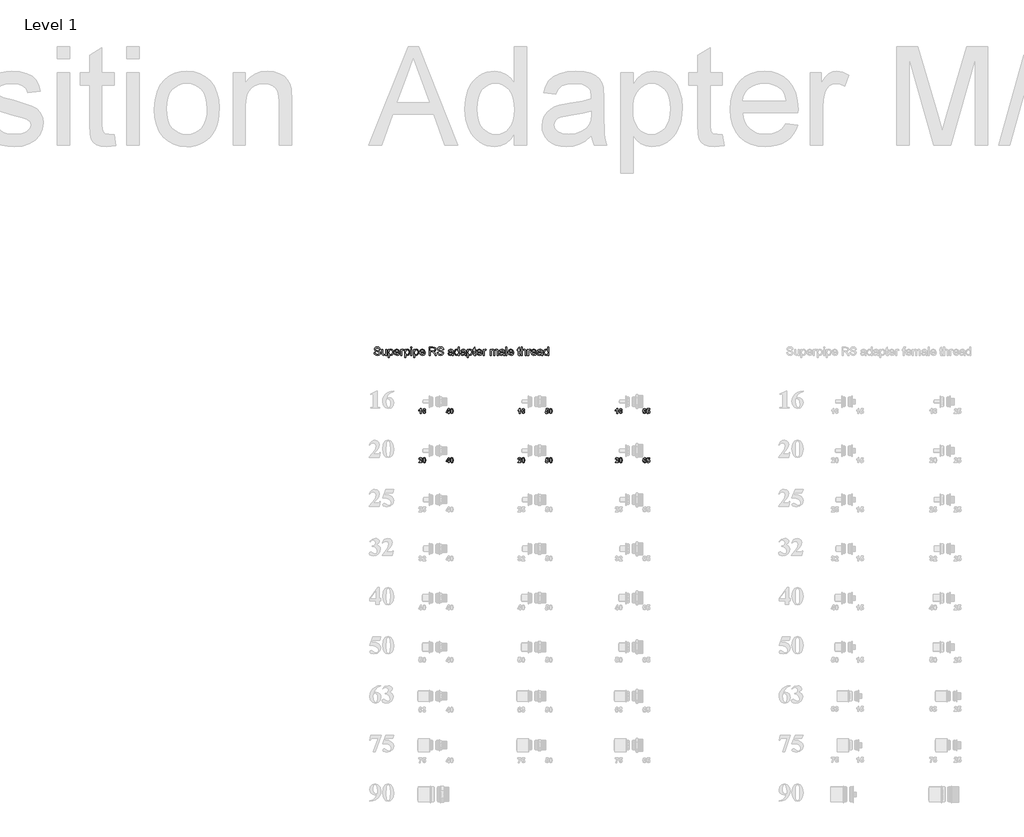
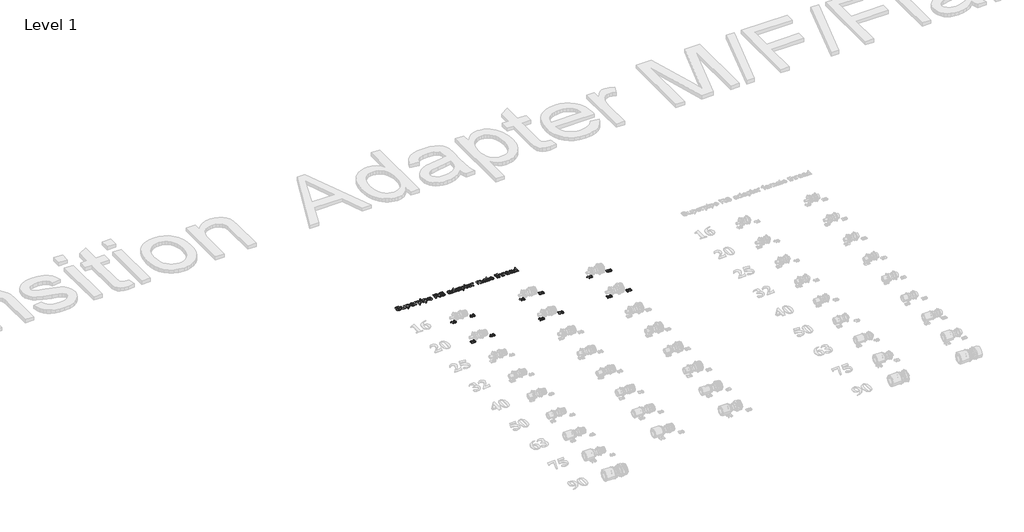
# One storey, part 35 of 57: 13 proxies.
"""IFC4 building model written with IfcOpenShell, lengths in millimetres."""

from ifc_helpers import new_model, si_unit, frame, origin, place, context, project, spatial, polyline, outline, extrude, element, save

model = new_model("IFC4")

# Units and contexts
model_context = context("Model", 3, world=origin())
ifc_project = project(units=[si_unit("LENGTHUNIT", "METRE", prefix="MILLI")], contexts=[model_context])

# Site, building, storey
site = spatial("IfcSite", under=ifc_project)
building = spatial("IfcBuilding", under=site)
storey = spatial("IfcBuildingStorey", under=building, Name="Level 1", Elevation=27.3876384)

# Proxies
placement = place(None, origin())
element("IfcBuildingElementProxy", 1, Name="30mm Arial", ObjectType="30mm Arial", at=placement, inside=storey, context=model_context, shape_type="SweptSolid", body=[
    extrude(outline(polyline([(29102.0287378, 18279.4089076), (29102.0287378, 18273.5788539), (29082.5952254, 18273.5788539), (29084.4550733, 18279.298835), (29090.566002, 18286.4687383), (29095.0751842, 18291.3574813), (29096.1986841, 18294.864623), (29095.2535777, 18297.8138103), (29092.6459951, 18298.84242), (29090.0346169, 18297.8289927), (29088.911117, 18294.4698797), (29083.0810633, 18295.0012648), (29086.2086442, 18302.0497087), (29092.7750458, 18304.1866359), (29099.5615927, 18301.7916074), (29102.0287378, 18295.8362986), (29101.3531196, 18291.979961), (29099.2123968, 18288.146397), (29095.5875912, 18284.3204243), (29092.2588431, 18281.003063), (29091.1657081, 18279.4089076), (29102.0287378, 18279.4089076)])), frame((0.0, 0.0, 27.3876384), z_axis=(0.0, 0.0, 1.0), x_axis=(1.0, 0.0, 0.0)), (0.0, 0.0, 1.0), 2.0),
    extrude(outline(polyline([(29115.6321965, 18304.1866359), (29122.4263346, 18301.0286902), (29125.3489527, 18288.6322348), (29122.4111522, 18276.2054146), (29115.6321965, 18273.0930161), (29108.5913439, 18276.5090632), (29105.9154403, 18288.6929645), (29108.8532408, 18301.0742375), (29115.6321965, 18304.1866359)]), holes=[polyline([(29115.6321965, 18298.84242), (29113.6888453, 18298.2009623), (29112.3679737, 18295.8970283), (29111.745494, 18288.6322348), (29112.2996528, 18281.6141558), (29113.7002321, 18279.0710985), (29115.6321965, 18278.437232), (29117.5755477, 18279.0786898), (29118.8964193, 18281.3826237), (29119.518899, 18288.6322348), (29118.9647402, 18295.6465182), (29117.5641609, 18298.2009623), (29115.6321965, 18298.84242)])]), frame((0.0, 0.0, 27.3876384), z_axis=(0.0, 0.0, 1.0), x_axis=(1.0, 0.0, 0.0)), (0.0, 0.0, 1.0), 2.0),
])
element("IfcBuildingElementProxy", 2, Name="30mm Arial", ObjectType="30mm Arial", at=placement, inside=storey, context=model_context, shape_type="SweptSolid", body=[
    extrude(outline(polyline([(29262.0336573, 18273.5788539), (29262.0336573, 18279.8947455), (29250.3735498, 18279.8947455), (29250.3735498, 18284.7303499), (29262.8079613, 18303.7007981), (29267.863711, 18303.7007981), (29267.863711, 18284.7531236), (29271.7504134, 18284.7531236), (29271.7504134, 18279.8947455), (29267.863711, 18279.8947455), (29267.863711, 18273.5788539), (29262.0336573, 18273.5788539)]), holes=[polyline([(29262.0336573, 18284.7531236), (29262.0336573, 18294.6976162), (29255.5203941, 18284.7531236), (29262.0336573, 18284.7531236)])]), frame((0.0, 0.0, 27.3876384), z_axis=(0.0, 0.0, 1.0), x_axis=(1.0, 0.0, 0.0)), (0.0, 0.0, 1.0), 2.0),
    extrude(outline(polyline([(29284.3821965, 18304.1866359), (29291.1763346, 18301.0286902), (29294.0989527, 18288.6322348), (29291.1611522, 18276.2054146), (29284.3821965, 18273.0930161), (29277.3413439, 18276.5090632), (29274.6654403, 18288.6929645), (29277.6032408, 18301.0742375), (29284.3821965, 18304.1866359)]), holes=[polyline([(29284.3821965, 18298.84242), (29282.4388453, 18298.2009623), (29281.1179737, 18295.8970283), (29280.495494, 18288.6322348), (29281.0496528, 18281.6141558), (29282.4502321, 18279.0710985), (29284.3821965, 18278.437232), (29286.3255477, 18279.0786898), (29287.6464193, 18281.3826237), (29288.268899, 18288.6322348), (29287.7147402, 18295.6465182), (29286.3141609, 18298.2009623), (29284.3821965, 18298.84242)])]), frame((0.0, 0.0, 27.3876384), z_axis=(0.0, 0.0, 1.0), x_axis=(1.0, 0.0, 0.0)), (0.0, 0.0, 1.0), 2.0),
])
element("IfcBuildingElementProxy", 3, Name="30mm Arial", ObjectType="30mm Arial", at=placement, inside=storey, context=model_context, shape_type="SweptSolid", body=[
    extrude(outline(polyline([(29097.1703597, 18573.5788539), (29091.340306, 18573.5788539), (29091.340306, 18595.4567378), (29084.0527389, 18590.5831773), (29084.0527389, 18596.413231), (29088.9187082, 18599.2713237), (29092.5245357, 18604.1866359), (29097.1703597, 18604.1866359), (29097.1703597, 18573.5788539)])), frame((0.0, 0.0, 27.3876384), z_axis=(0.0, 0.0, 1.0), x_axis=(1.0, 0.0, 0.0)), (0.0, 0.0, 1.0), 2.0),
    extrude(outline(polyline([(29124.8631149, 18596.0640351), (29119.0330612, 18595.4415554), (29118.0006558, 18598.0111819), (29115.8295681, 18598.84242), (29112.8386291, 18597.2292867), (29111.2976123, 18590.4541266), (29116.6266458, 18593.0123663), (29122.7869174, 18590.2795286), (29125.3489527, 18583.2272892), (29122.7299832, 18575.8676055), (29115.9965749, 18573.0930161), (29108.754555, 18576.67607), (29105.9154403, 18588.4196808), (29108.8798101, 18600.4897138), (29116.5810985, 18604.1866359), (29122.0847299, 18602.1066428), (29124.8631149, 18596.0640351)]), holes=[polyline([(29111.745494, 18583.3563398), (29113.0056358, 18579.7163519), (29115.8827066, 18578.437232), (29118.4789024, 18579.4848198), (29119.518899, 18582.9236405), (29118.3991946, 18586.5256724), (29115.6018316, 18587.6681504), (29112.8651983, 18586.5750153), (29111.745494, 18583.3563398)])]), frame((0.0, 0.0, 27.3876384), z_axis=(0.0, 0.0, 1.0), x_axis=(1.0, 0.0, 0.0)), (0.0, 0.0, 1.0), 2.0),
])
element("IfcBuildingElementProxy", 4, Name="30mm Arial", ObjectType="30mm Arial", at=placement, inside=storey, context=model_context, shape_type="SweptSolid", body=[
    extrude(outline(polyline([(29262.0336573, 18573.5788539), (29262.0336573, 18579.8947455), (29250.3735498, 18579.8947455), (29250.3735498, 18584.7303499), (29262.8079613, 18603.7007981), (29267.863711, 18603.7007981), (29267.863711, 18584.7531236), (29271.7504134, 18584.7531236), (29271.7504134, 18579.8947455), (29267.863711, 18579.8947455), (29267.863711, 18573.5788539), (29262.0336573, 18573.5788539)]), holes=[polyline([(29262.0336573, 18584.7531236), (29262.0336573, 18594.6976162), (29255.5203941, 18584.7531236), (29262.0336573, 18584.7531236)])]), frame((0.0, 0.0, 27.3876384), z_axis=(0.0, 0.0, 1.0), x_axis=(1.0, 0.0, 0.0)), (0.0, 0.0, 1.0), 2.0),
    extrude(outline(polyline([(29284.3821965, 18604.1866359), (29291.1763346, 18601.0286902), (29294.0989527, 18588.6322348), (29291.1611522, 18576.2054146), (29284.3821965, 18573.0930161), (29277.3413439, 18576.5090632), (29274.6654403, 18588.6929645), (29277.6032408, 18601.0742375), (29284.3821965, 18604.1866359)]), holes=[polyline([(29284.3821965, 18598.84242), (29282.4388453, 18598.2009623), (29281.1179737, 18595.8970283), (29280.495494, 18588.6322348), (29281.0496528, 18581.6141558), (29282.4502321, 18579.0710985), (29284.3821965, 18578.437232), (29286.3255477, 18579.0786898), (29287.6464193, 18581.3826237), (29288.268899, 18588.6322348), (29287.7147402, 18595.6465182), (29286.3141609, 18598.2009623), (29284.3821965, 18598.84242)])]), frame((0.0, 0.0, 27.3876384), z_axis=(0.0, 0.0, 1.0), x_axis=(1.0, 0.0, 0.0)), (0.0, 0.0, 1.0), 2.0),
])
element("IfcBuildingElementProxy", 5, Name="30mm Arial", ObjectType="30mm Arial", at=placement, inside=storey, context=model_context, shape_type="SweptSolid", body=[
    extrude(outline(polyline([(29707.0287378, 18279.4089076), (29707.0287378, 18273.5788539), (29687.5952254, 18273.5788539), (29689.4550733, 18279.298835), (29695.566002, 18286.4687383), (29700.0751842, 18291.3574813), (29701.1986841, 18294.864623), (29700.2535777, 18297.8138103), (29697.6459951, 18298.84242), (29695.0346169, 18297.8289927), (29693.911117, 18294.4698797), (29688.0810633, 18295.0012648), (29691.2086442, 18302.0497087), (29697.7750458, 18304.1866359), (29704.5615927, 18301.7916074), (29707.0287378, 18295.8362986), (29706.3531196, 18291.979961), (29704.2123968, 18288.146397), (29700.5875912, 18284.3204243), (29697.2588431, 18281.003063), (29696.1657081, 18279.4089076), (29707.0287378, 18279.4089076)])), frame((0.0, 0.0, 27.3876384), z_axis=(0.0, 0.0, 1.0), x_axis=(1.0, 0.0, 0.0)), (0.0, 0.0, 1.0), 2.0),
    extrude(outline(polyline([(29720.6321965, 18304.1866359), (29727.4263346, 18301.0286902), (29730.3489527, 18288.6322348), (29727.4111522, 18276.2054146), (29720.6321965, 18273.0930161), (29713.5913439, 18276.5090632), (29710.9154403, 18288.6929645), (29713.8532408, 18301.0742375), (29720.6321965, 18304.1866359)]), holes=[polyline([(29720.6321965, 18298.84242), (29718.6888453, 18298.2009623), (29717.3679737, 18295.8970283), (29716.745494, 18288.6322348), (29717.2996528, 18281.6141558), (29718.7002321, 18279.0710985), (29720.6321965, 18278.437232), (29722.5755477, 18279.0786898), (29723.8964193, 18281.3826237), (29724.518899, 18288.6322348), (29723.9647402, 18295.6465182), (29722.5641609, 18298.2009623), (29720.6321965, 18298.84242)])]), frame((0.0, 0.0, 27.3876384), z_axis=(0.0, 0.0, 1.0), x_axis=(1.0, 0.0, 0.0)), (0.0, 0.0, 1.0), 2.0),
])
element("IfcBuildingElementProxy", 6, Name="30mm Arial", ObjectType="30mm Arial", at=placement, inside=storey, context=model_context, shape_type="SweptSolid", body=[
    extrude(outline(polyline([(29856.3452254, 18282.1948838), (29861.6894414, 18282.8097723), (29863.1773196, 18279.6138705), (29866.0316168, 18278.437232), (29869.1554021, 18279.685987), (29870.4345219, 18283.4474344), (29869.2464967, 18286.9773498), (29866.1530762, 18288.1539882), (29861.886813, 18285.7247992), (29856.8310633, 18286.4763295), (29860.2319279, 18303.7007981), (29874.8070622, 18303.7007981), (29874.8070622, 18297.8707444), (29864.9460729, 18297.8707444), (29863.7694345, 18292.3063832), (29867.5270863, 18293.4982041), (29873.7215184, 18290.7387972), (29876.2645756, 18283.5764851), (29874.1466264, 18277.0252659), (29866.1227114, 18273.0930161), (29859.4386459, 18275.5601612), (29856.3452254, 18282.1948838)])), frame((0.0, 0.0, 27.3876384), z_axis=(0.0, 0.0, 1.0), x_axis=(1.0, 0.0, 0.0)), (0.0, 0.0, 1.0), 2.0),
    extrude(outline(polyline([(29889.3821965, 18304.1866359), (29896.1763346, 18301.0286902), (29899.0989527, 18288.6322348), (29896.1611522, 18276.2054146), (29889.3821965, 18273.0930161), (29882.3413439, 18276.5090632), (29879.6654403, 18288.6929645), (29882.6032408, 18301.0742375), (29889.3821965, 18304.1866359)]), holes=[polyline([(29889.3821965, 18298.84242), (29887.4388453, 18298.2009623), (29886.1179737, 18295.8970283), (29885.495494, 18288.6322348), (29886.0496528, 18281.6141558), (29887.4502321, 18279.0710985), (29889.3821965, 18278.437232), (29891.3255477, 18279.0786898), (29892.6464193, 18281.3826237), (29893.268899, 18288.6322348), (29892.7147402, 18295.6465182), (29891.3141609, 18298.2009623), (29889.3821965, 18298.84242)])]), frame((0.0, 0.0, 27.3876384), z_axis=(0.0, 0.0, 1.0), x_axis=(1.0, 0.0, 0.0)), (0.0, 0.0, 1.0), 2.0),
])
element("IfcBuildingElementProxy", 7, Name="30mm Arial", ObjectType="30mm Arial", at=placement, inside=storey, context=model_context, shape_type="SweptSolid", body=[
    extrude(outline(polyline([(29702.1703597, 18573.5788539), (29696.340306, 18573.5788539), (29696.340306, 18595.4567378), (29689.0527389, 18590.5831773), (29689.0527389, 18596.413231), (29693.9187082, 18599.2713237), (29697.5245357, 18604.1866359), (29702.1703597, 18604.1866359), (29702.1703597, 18573.5788539)])), frame((0.0, 0.0, 27.3876384), z_axis=(0.0, 0.0, 1.0), x_axis=(1.0, 0.0, 0.0)), (0.0, 0.0, 1.0), 2.0),
    extrude(outline(polyline([(29729.8631149, 18596.0640351), (29724.0330612, 18595.4415554), (29723.0006558, 18598.0111819), (29720.8295681, 18598.84242), (29717.8386291, 18597.2292867), (29716.2976123, 18590.4541266), (29721.6266458, 18593.0123663), (29727.7869174, 18590.2795286), (29730.3489527, 18583.2272892), (29727.7299832, 18575.8676055), (29720.9965749, 18573.0930161), (29713.754555, 18576.67607), (29710.9154403, 18588.4196808), (29713.8798101, 18600.4897138), (29721.5810985, 18604.1866359), (29727.0847299, 18602.1066428), (29729.8631149, 18596.0640351)]), holes=[polyline([(29716.745494, 18583.3563398), (29718.0056358, 18579.7163519), (29720.8827066, 18578.437232), (29723.4789024, 18579.4848198), (29724.518899, 18582.9236405), (29723.3991946, 18586.5256724), (29720.6018316, 18587.6681504), (29717.8651983, 18586.5750153), (29716.745494, 18583.3563398)])]), frame((0.0, 0.0, 27.3876384), z_axis=(0.0, 0.0, 1.0), x_axis=(1.0, 0.0, 0.0)), (0.0, 0.0, 1.0), 2.0),
])
element("IfcBuildingElementProxy", 8, Name="30mm Arial", ObjectType="30mm Arial", at=placement, inside=storey, context=model_context, shape_type="SweptSolid", body=[
    extrude(outline(polyline([(29856.3452254, 18582.1948838), (29861.6894414, 18582.8097723), (29863.1773196, 18579.6138705), (29866.0316168, 18578.437232), (29869.1554021, 18579.685987), (29870.4345219, 18583.4474344), (29869.2464967, 18586.9773498), (29866.1530762, 18588.1539882), (29861.886813, 18585.7247992), (29856.8310633, 18586.4763295), (29860.2319279, 18603.7007981), (29874.8070622, 18603.7007981), (29874.8070622, 18597.8707444), (29864.9460729, 18597.8707444), (29863.7694345, 18592.3063832), (29867.5270863, 18593.4982041), (29873.7215184, 18590.7387972), (29876.2645756, 18583.5764851), (29874.1466264, 18577.0252659), (29866.1227114, 18573.0930161), (29859.4386459, 18575.5601612), (29856.3452254, 18582.1948838)])), frame((0.0, 0.0, 27.3876384), z_axis=(0.0, 0.0, 1.0), x_axis=(1.0, 0.0, 0.0)), (0.0, 0.0, 1.0), 2.0),
    extrude(outline(polyline([(29889.3821965, 18604.1866359), (29896.1763346, 18601.0286902), (29899.0989527, 18588.6322348), (29896.1611522, 18576.2054146), (29889.3821965, 18573.0930161), (29882.3413439, 18576.5090632), (29879.6654403, 18588.6929645), (29882.6032408, 18601.0742375), (29889.3821965, 18604.1866359)]), holes=[polyline([(29889.3821965, 18598.84242), (29887.4388453, 18598.2009623), (29886.1179737, 18595.8970283), (29885.495494, 18588.6322348), (29886.0496528, 18581.6141558), (29887.4502321, 18579.0710985), (29889.3821965, 18578.437232), (29891.3255477, 18579.0786898), (29892.6464193, 18581.3826237), (29893.268899, 18588.6322348), (29892.7147402, 18595.6465182), (29891.3141609, 18598.2009623), (29889.3821965, 18598.84242)])]), frame((0.0, 0.0, 27.3876384), z_axis=(0.0, 0.0, 1.0), x_axis=(1.0, 0.0, 0.0)), (0.0, 0.0, 1.0), 2.0),
])
element("IfcBuildingElementProxy", 9, Name="30mm Arial", ObjectType="30mm Arial", at=placement, inside=storey, context=model_context, shape_type="SweptSolid", body=[
    extrude(outline(polyline([(30302.0287378, 18279.4089076), (30302.0287378, 18273.5788539), (30282.5952254, 18273.5788539), (30284.4550733, 18279.298835), (30290.566002, 18286.4687383), (30295.0751842, 18291.3574813), (30296.1986841, 18294.864623), (30295.2535777, 18297.8138103), (30292.6459951, 18298.84242), (30290.0346169, 18297.8289927), (30288.911117, 18294.4698797), (30283.0810633, 18295.0012648), (30286.2086442, 18302.0497087), (30292.7750458, 18304.1866359), (30299.5615927, 18301.7916074), (30302.0287378, 18295.8362986), (30301.3531196, 18291.979961), (30299.2123968, 18288.146397), (30295.5875912, 18284.3204243), (30292.2588431, 18281.003063), (30291.1657081, 18279.4089076), (30302.0287378, 18279.4089076)])), frame((0.0, 0.0, 27.3876384), z_axis=(0.0, 0.0, 1.0), x_axis=(1.0, 0.0, 0.0)), (0.0, 0.0, 1.0), 2.0),
    extrude(outline(polyline([(30315.6321965, 18304.1866359), (30322.4263346, 18301.0286902), (30325.3489527, 18288.6322348), (30322.4111522, 18276.2054146), (30315.6321965, 18273.0930161), (30308.5913439, 18276.5090632), (30305.9154403, 18288.6929645), (30308.8532408, 18301.0742375), (30315.6321965, 18304.1866359)]), holes=[polyline([(30315.6321965, 18298.84242), (30313.6888453, 18298.2009623), (30312.3679737, 18295.8970283), (30311.745494, 18288.6322348), (30312.2996528, 18281.6141558), (30313.7002321, 18279.0710985), (30315.6321965, 18278.437232), (30317.5755477, 18279.0786898), (30318.8964193, 18281.3826237), (30319.518899, 18288.6322348), (30318.9647402, 18295.6465182), (30317.5641609, 18298.2009623), (30315.6321965, 18298.84242)])]), frame((0.0, 0.0, 27.3876384), z_axis=(0.0, 0.0, 1.0), x_axis=(1.0, 0.0, 0.0)), (0.0, 0.0, 1.0), 2.0),
])
element("IfcBuildingElementProxy", 10, Name="30mm Arial", ObjectType="30mm Arial", at=placement, inside=storey, context=model_context, shape_type="SweptSolid", body=[
    extrude(outline(polyline([(30470.2929, 18296.0640351), (30464.4628463, 18295.4415554), (30463.430441, 18298.0111819), (30461.2593532, 18298.84242), (30458.2684142, 18297.2292867), (30456.7273974, 18290.4541266), (30462.0564309, 18293.0123663), (30468.2167025, 18290.2795286), (30470.7787378, 18283.2272892), (30468.1597684, 18275.8676055), (30461.42636, 18273.0930161), (30454.1843401, 18276.67607), (30451.3452254, 18288.4196808), (30454.3095952, 18300.4897138), (30462.0108836, 18304.1866359), (30467.514515, 18302.1066428), (30470.2929, 18296.0640351)]), holes=[polyline([(30457.1752792, 18283.3563398), (30458.435421, 18279.7163519), (30461.3124918, 18278.437232), (30463.9086876, 18279.4848198), (30464.9486841, 18282.9236405), (30463.8289798, 18286.5256724), (30461.0316168, 18287.6681504), (30458.2949835, 18286.5750153), (30457.1752792, 18283.3563398)])]), frame((0.0, 0.0, 27.3876384), z_axis=(0.0, 0.0, 1.0), x_axis=(1.0, 0.0, 0.0)), (0.0, 0.0, 1.0), 2.0),
    extrude(outline(polyline([(30474.6654403, 18282.1948838), (30480.0096562, 18282.8097723), (30481.4975345, 18279.6138705), (30484.3518316, 18278.437232), (30487.4756169, 18279.685987), (30488.7547368, 18283.4474344), (30487.5667115, 18286.9773498), (30484.4732911, 18288.1539882), (30480.2070278, 18285.7247992), (30475.1512781, 18286.4763295), (30478.5521428, 18303.7007981), (30493.1272771, 18303.7007981), (30493.1272771, 18297.8707444), (30483.2662878, 18297.8707444), (30482.0896493, 18292.3063832), (30485.8473011, 18293.4982041), (30492.0417332, 18290.7387972), (30494.5847905, 18283.5764851), (30492.4668413, 18277.0252659), (30484.4429262, 18273.0930161), (30477.7588607, 18275.5601612), (30474.6654403, 18282.1948838)])), frame((0.0, 0.0, 27.3876384), z_axis=(0.0, 0.0, 1.0), x_axis=(1.0, 0.0, 0.0)), (0.0, 0.0, 1.0), 2.0),
])
element("IfcBuildingElementProxy", 11, Name="30mm Arial", ObjectType="30mm Arial", at=placement, inside=storey, context=model_context, shape_type="SweptSolid", body=[
    extrude(outline(polyline([(30297.1703597, 18573.5788539), (30291.340306, 18573.5788539), (30291.340306, 18595.4567378), (30284.0527389, 18590.5831773), (30284.0527389, 18596.413231), (30288.9187082, 18599.2713237), (30292.5245357, 18604.1866359), (30297.1703597, 18604.1866359), (30297.1703597, 18573.5788539)])), frame((0.0, 0.0, 27.3876384), z_axis=(0.0, 0.0, 1.0), x_axis=(1.0, 0.0, 0.0)), (0.0, 0.0, 1.0), 2.0),
    extrude(outline(polyline([(30324.8631149, 18596.0640351), (30319.0330612, 18595.4415554), (30318.0006558, 18598.0111819), (30315.8295681, 18598.84242), (30312.8386291, 18597.2292867), (30311.2976123, 18590.4541266), (30316.6266458, 18593.0123663), (30322.7869174, 18590.2795286), (30325.3489527, 18583.2272892), (30322.7299832, 18575.8676055), (30315.9965749, 18573.0930161), (30308.754555, 18576.67607), (30305.9154403, 18588.4196808), (30308.8798101, 18600.4897138), (30316.5810985, 18604.1866359), (30322.0847299, 18602.1066428), (30324.8631149, 18596.0640351)]), holes=[polyline([(30311.745494, 18583.3563398), (30313.0056358, 18579.7163519), (30315.8827066, 18578.437232), (30318.4789024, 18579.4848198), (30319.518899, 18582.9236405), (30318.3991946, 18586.5256724), (30315.6018316, 18587.6681504), (30312.8651983, 18586.5750153), (30311.745494, 18583.3563398)])]), frame((0.0, 0.0, 27.3876384), z_axis=(0.0, 0.0, 1.0), x_axis=(1.0, 0.0, 0.0)), (0.0, 0.0, 1.0), 2.0),
])
element("IfcBuildingElementProxy", 12, Name="30mm Arial", ObjectType="30mm Arial", at=placement, inside=storey, context=model_context, shape_type="SweptSolid", body=[
    extrude(outline(polyline([(30470.2929, 18596.0640351), (30464.4628463, 18595.4415554), (30463.430441, 18598.0111819), (30461.2593532, 18598.84242), (30458.2684142, 18597.2292867), (30456.7273974, 18590.4541266), (30462.0564309, 18593.0123663), (30468.2167025, 18590.2795286), (30470.7787378, 18583.2272892), (30468.1597684, 18575.8676055), (30461.42636, 18573.0930161), (30454.1843401, 18576.67607), (30451.3452254, 18588.4196808), (30454.3095952, 18600.4897138), (30462.0108836, 18604.1866359), (30467.514515, 18602.1066428), (30470.2929, 18596.0640351)]), holes=[polyline([(30457.1752792, 18583.3563398), (30458.435421, 18579.7163519), (30461.3124918, 18578.437232), (30463.9086876, 18579.4848198), (30464.9486841, 18582.9236405), (30463.8289798, 18586.5256724), (30461.0316168, 18587.6681504), (30458.2949835, 18586.5750153), (30457.1752792, 18583.3563398)])]), frame((0.0, 0.0, 27.3876384), z_axis=(0.0, 0.0, 1.0), x_axis=(1.0, 0.0, 0.0)), (0.0, 0.0, 1.0), 2.0),
    extrude(outline(polyline([(30474.6654403, 18582.1948838), (30480.0096562, 18582.8097723), (30481.4975345, 18579.6138705), (30484.3518316, 18578.437232), (30487.4756169, 18579.685987), (30488.7547368, 18583.4474344), (30487.5667115, 18586.9773498), (30484.4732911, 18588.1539882), (30480.2070278, 18585.7247992), (30475.1512781, 18586.4763295), (30478.5521428, 18603.7007981), (30493.1272771, 18603.7007981), (30493.1272771, 18597.8707444), (30483.2662878, 18597.8707444), (30482.0896493, 18592.3063832), (30485.8473011, 18593.4982041), (30492.0417332, 18590.7387972), (30494.5847905, 18583.5764851), (30492.4668413, 18577.0252659), (30484.4429262, 18573.0930161), (30477.7588607, 18575.5601612), (30474.6654403, 18582.1948838)])), frame((0.0, 0.0, 27.3876384), z_axis=(0.0, 0.0, 1.0), x_axis=(1.0, 0.0, 0.0)), (0.0, 0.0, 1.0), 2.0),
])
element("IfcBuildingElementProxy", 13, Name="50mm Arial", ObjectType="50mm Arial", at=placement, inside=storey, context=model_context, shape_type="SweptSolid", body=[
    extrude(outline(polyline([(28809.6871322, 18946.7630144), (28815.9656516, 18946.7630144), (28817.9890026, 18940.4783637), (28822.930884, 18936.5052381), (28830.4602022, 18934.9907906), (28837.0207645, 18936.1373562), (28841.2575388, 18939.2888786), (28842.649359, 18943.5011274), (28841.6070267, 18947.4190707), (28837.3395955, 18950.2701561), (28828.1977279, 18952.6675205), (28818.3568846, 18955.7638606), (28813.0164643, 18960.4359619), (28811.2567621, 18966.6776931), (28813.4333972, 18973.783947), (28819.7916244, 18978.7994049), (28829.0990388, 18980.5100561), (28839.0318527, 18978.7196971), (28845.6537286, 18973.4589846), (28848.1430635, 18965.5985726), (28841.8645441, 18965.5985726), (28838.3083514, 18972.0487702), (28829.3442935, 18974.2315368), (28820.3557101, 18972.0732957), (28817.5352815, 18966.8616341), (28819.534107, 18962.5083638), (28829.7857519, 18959.0012222), (28840.8957881, 18955.8496997), (28846.9719724, 18950.7606655), (28848.9278784, 18943.660543), (28846.6776668, 18936.1496189), (28840.2029437, 18930.6681772), (28830.7054569, 18928.7122712), (28819.4911874, 18930.8214613), (28812.3971963, 18937.1735571), (28809.6871322, 18946.7630144)])), frame((0.0, 0.0, 27.3876384), z_axis=(0.0, 0.0, 1.0), x_axis=(1.0, 0.0, 0.0)), (0.0, 0.0, 1.0), 2.0),
    extrude(outline(polyline([(28881.1052902, 18929.4970861), (28881.1052902, 18935.8369192), (28876.1879342, 18930.4934332), (28869.7745248, 18928.7122712), (28863.8700187, 18929.96307), (28859.7987913, 18933.1023297), (28857.9287245, 18937.7253801), (28857.5608425, 18943.5624411), (28857.5608425, 18966.3833875), (28863.8393619, 18966.3833875), (28863.8393619, 18946.5177598), (28864.2195066, 18940.1166131), (28866.7027101, 18936.3580853), (28871.3809428, 18934.9907906), (28876.6232612, 18936.3887422), (28880.0874834, 18940.1963208), (28881.1052902, 18947.1922101), (28881.1052902, 18966.3833875), (28887.3838096, 18966.3833875), (28887.3838096, 18929.4970861), (28881.1052902, 18929.4970861)])), frame((0.0, 0.0, 27.3876384), z_axis=(0.0, 0.0, 1.0), x_axis=(1.0, 0.0, 0.0)), (0.0, 0.0, 1.0), 2.0),
    extrude(outline(polyline([(28896.0167738, 18915.3704175), (28896.0167738, 18966.3833875), (28902.2952931, 18966.3833875), (28902.2952931, 18960.2274955), (28906.6363007, 18965.4330257), (28912.4978871, 18967.1682024), (28920.456401, 18964.7401813), (28925.6557998, 18957.8975762), (28927.4093707, 18948.2222797), (28925.4289393, 18938.0503425), (28919.6777174, 18931.1218983), (28911.7375977, 18928.7122712), (28906.2745501, 18930.3248206), (28902.2952931, 18934.4021794), (28902.2952931, 18915.3704175), (28896.0167738, 18915.3704175)]), holes=[polyline([(28902.2952931, 18947.6459312), (28905.0114885, 18938.0809994), (28911.6027076, 18934.9907906), (28918.3288168, 18938.191364), (28921.1308513, 18948.1119151), (28918.3962618, 18957.7013724), (28911.860225, 18960.8896831), (28905.1954295, 18957.4990373), (28902.2952931, 18947.6459312)])]), frame((0.0, 0.0, 27.3876384), z_axis=(0.0, 0.0, 1.0), x_axis=(1.0, 0.0, 0.0)), (0.0, 0.0, 1.0), 2.0),
    extrude(outline(polyline([(28960.298021, 18940.4844951), (28966.4539131, 18939.6996801), (28960.6965599, 18931.5940135), (28949.9727997, 18928.7122712), (28936.9375144, 18933.6848095), (28932.1182602, 18947.6336685), (28936.9865653, 18962.04238), (28949.6171805, 18967.1682024), (28961.886045, 18962.0546427), (28966.6501168, 18947.6704567), (28966.6133286, 18945.9781995), (28938.3967796, 18945.9781995), (28942.0081545, 18937.823482), (28950.095427, 18934.9907906), (28956.2513191, 18936.3029031), (28960.298021, 18940.4844951)]), holes=[polyline([(28938.3967796, 18952.2567189), (28960.3715974, 18952.2567189), (28957.8577371, 18957.9466271), (28949.592655, 18960.8896831), (28941.8610017, 18958.5413697), (28938.3967796, 18952.2567189)])]), frame((0.0, 0.0, 27.3876384), z_axis=(0.0, 0.0, 1.0), x_axis=(1.0, 0.0, 0.0)), (0.0, 0.0, 1.0), 2.0),
    extrude(outline(polyline([(28972.9286362, 18929.4970861), (28972.9286362, 18966.3833875), (28978.4223407, 18966.3833875), (28978.4223407, 18960.9264713), (28982.3218898, 18965.9541919), (28986.2459644, 18967.1682024), (28992.5490093, 18965.2306906), (28990.4520819, 18959.6020961), (28986.037498, 18960.8896831), (28982.4874367, 18959.651147), (28980.2249625, 18956.2175817), (28979.2071556, 18948.8844673), (28979.2071556, 18929.4970861), (28972.9286362, 18929.4970861)])), frame((0.0, 0.0, 27.3876384), z_axis=(0.0, 0.0, 1.0), x_axis=(1.0, 0.0, 0.0)), (0.0, 0.0, 1.0), 2.0),
    extrude(outline(polyline([(28996.4730839, 18915.3704175), (28996.4730839, 18966.3833875), (29002.7516033, 18966.3833875), (29002.7516033, 18960.2274955), (29007.0926108, 18965.4330257), (29012.9541973, 18967.1682024), (29020.9127111, 18964.7401813), (29026.11211, 18957.8975762), (29027.8656808, 18948.2222797), (29025.8852494, 18938.0503425), (29020.1340276, 18931.1218983), (29012.1939078, 18928.7122712), (29006.7308602, 18930.3248206), (29002.7516033, 18934.4021794), (29002.7516033, 18915.3704175), (28996.4730839, 18915.3704175)]), holes=[polyline([(29002.7516033, 18947.6459312), (29005.4677987, 18938.0809994), (29012.0590178, 18934.9907906), (29018.7851269, 18938.191364), (29021.5871614, 18948.1119151), (29018.8525719, 18957.7013724), (29012.3165352, 18960.8896831), (29005.6517397, 18957.4990373), (29002.7516033, 18947.6459312)])]), frame((0.0, 0.0, 27.3876384), z_axis=(0.0, 0.0, 1.0), x_axis=(1.0, 0.0, 0.0)), (0.0, 0.0, 1.0), 2.0),
    extrude(outline(polyline([(29034.9290151, 18929.4970861), (29034.9290151, 18966.3833875), (29041.2075345, 18966.3833875), (29041.2075345, 18929.4970861), (29034.9290151, 18929.4970861)])), frame((0.0, 0.0, 27.3876384), z_axis=(0.0, 0.0, 1.0), x_axis=(1.0, 0.0, 0.0)), (0.0, 0.0, 1.0), 2.0),
    extrude(outline(polyline([(29034.9290151, 18973.4467218), (29034.9290151, 18979.7252412), (29041.2075345, 18979.7252412), (29041.2075345, 18973.4467218), (29034.9290151, 18973.4467218)])), frame((0.0, 0.0, 27.3876384), z_axis=(0.0, 0.0, 1.0), x_axis=(1.0, 0.0, 0.0)), (0.0, 0.0, 1.0), 2.0),
    extrude(outline(polyline([(29050.6253136, 18915.3704175), (29050.6253136, 18966.3833875), (29056.903833, 18966.3833875), (29056.903833, 18960.2274955), (29061.2448405, 18965.4330257), (29067.106427, 18967.1682024), (29075.0649408, 18964.7401813), (29080.2643397, 18957.8975762), (29082.0179105, 18948.2222797), (29080.0374791, 18938.0503425), (29074.2862573, 18931.1218983), (29066.3461375, 18928.7122712), (29060.8830899, 18930.3248206), (29056.903833, 18934.4021794), (29056.903833, 18915.3704175), (29050.6253136, 18915.3704175)]), holes=[polyline([(29056.903833, 18947.6459312), (29059.6200284, 18938.0809994), (29066.2112475, 18934.9907906), (29072.9373566, 18938.191364), (29075.7393911, 18948.1119151), (29073.0048016, 18957.7013724), (29066.4687649, 18960.8896831), (29059.8039694, 18957.4990373), (29056.903833, 18947.6459312)])]), frame((0.0, 0.0, 27.3876384), z_axis=(0.0, 0.0, 1.0), x_axis=(1.0, 0.0, 0.0)), (0.0, 0.0, 1.0), 2.0),
    extrude(outline(polyline([(29114.9065609, 18940.4844951), (29121.0624529, 18939.6996801), (29115.3050997, 18931.5940135), (29104.5813396, 18928.7122712), (29091.5460542, 18933.6848095), (29086.7268001, 18947.6336685), (29091.5951051, 18962.04238), (29104.2257203, 18967.1682024), (29116.4945848, 18962.0546427), (29121.2586567, 18947.6704567), (29121.2218685, 18945.9781995), (29093.0053194, 18945.9781995), (29096.6166944, 18937.823482), (29104.7039669, 18934.9907906), (29110.8598589, 18936.3029031), (29114.9065609, 18940.4844951)]), holes=[polyline([(29093.0053194, 18952.2567189), (29114.9801373, 18952.2567189), (29112.466277, 18957.9466271), (29104.2011948, 18960.8896831), (29096.4695416, 18958.5413697), (29093.0053194, 18952.2567189)])]), frame((0.0, 0.0, 27.3876384), z_axis=(0.0, 0.0, 1.0), x_axis=(1.0, 0.0, 0.0)), (0.0, 0.0, 1.0), 2.0),
    extrude(outline(polyline([(29147.9423641, 18929.4970861), (29147.9423641, 18979.7252412), (29169.5860881, 18979.7252412), (29179.6353979, 18978.3702092), (29185.1291024, 18973.5754805), (29187.1831102, 18965.9787173), (29183.7802018, 18956.9288202), (29173.2649081, 18952.2567189), (29176.8333634, 18949.5711803), (29181.9223977, 18943.10872), (29190.2978444, 18929.4970861), (29183.0015182, 18929.4970861), (29176.4654814, 18939.9081466), (29171.7443291, 18946.7998026), (29168.4272598, 18950.0555583), (29165.4412843, 18951.2511748), (29161.7992525, 18951.471904), (29154.2208834, 18951.471904), (29154.2208834, 18929.4970861), (29147.9423641, 18929.4970861)]), holes=[polyline([(29154.2208834, 18957.7504234), (29168.2739757, 18957.7504234), (29175.4415432, 18958.6394715), (29179.5127706, 18961.4844256), (29180.9045908, 18965.7457254), (29178.2497091, 18971.2762181), (29169.8558682, 18973.4467218), (29154.2208834, 18973.4467218), (29154.2208834, 18957.7504234)])]), frame((0.0, 0.0, 27.3876384), z_axis=(0.0, 0.0, 1.0), x_axis=(1.0, 0.0, 0.0)), (0.0, 0.0, 1.0), 2.0),
    extrude(outline(polyline([(29195.8160744, 18946.7630144), (29202.0945937, 18946.7630144), (29204.1179447, 18940.4783637), (29209.0598262, 18936.5052381), (29216.5891444, 18934.9907906), (29223.1497066, 18936.1373562), (29227.3864809, 18939.2888786), (29228.7783011, 18943.5011274), (29227.7359688, 18947.4190707), (29223.4685377, 18950.2701561), (29214.3266701, 18952.6675205), (29204.4858267, 18955.7638606), (29199.1454064, 18960.4359619), (29197.3857042, 18966.6776931), (29199.5623393, 18973.783947), (29205.9205665, 18978.7994049), (29215.227981, 18980.5100561), (29225.1607948, 18978.7196971), (29231.7826708, 18973.4589846), (29234.2720056, 18965.5985726), (29227.9934862, 18965.5985726), (29224.4372936, 18972.0487702), (29215.4732356, 18974.2315368), (29206.4846522, 18972.0732957), (29203.6642236, 18966.8616341), (29205.6630491, 18962.5083638), (29215.914694, 18959.0012222), (29227.0247303, 18955.8496997), (29233.1009146, 18950.7606655), (29235.0568205, 18943.660543), (29232.806609, 18936.1496189), (29226.3318859, 18930.6681772), (29216.834399, 18928.7122712), (29205.6201295, 18930.8214613), (29198.5261384, 18937.1735571), (29195.8160744, 18946.7630144)])), frame((0.0, 0.0, 27.3876384), z_axis=(0.0, 0.0, 1.0), x_axis=(1.0, 0.0, 0.0)), (0.0, 0.0, 1.0), 2.0),
    extrude(outline(polyline([(29286.8546054, 18934.2059757), (29280.7661584, 18929.9508073), (29274.0400493, 18928.7122712), (29264.9227072, 18931.6921154), (29261.7405279, 18939.3072727), (29262.9422757, 18944.2736796), (29266.0999295, 18947.8789232), (29270.4961194, 18949.9390623), (29275.9285102, 18950.8832928), (29286.8178172, 18953.0415338), (29285.1255601, 18959.0747986), (29278.1848531, 18960.8896831), (29271.8327573, 18959.6818038), (29268.8038622, 18955.3959786), (29262.5253428, 18956.1807935), (29265.2415382, 18962.3121601), (29270.7107172, 18965.9051409), (29278.9941935, 18967.1682024), (29286.6032194, 18966.0522937), (29290.9013074, 18963.2502592), (29292.8265565, 18958.9889594), (29293.1331248, 18953.495255), (29293.1331248, 18945.6838939), (29293.4519559, 18934.7761928), (29294.7027547, 18929.4970861), (29288.4242353, 18929.4970861), (29286.8546054, 18934.2059757)]), holes=[polyline([(29286.8546054, 18946.7630144), (29276.7255878, 18944.8377653), (29271.3238539, 18943.8199585), (29268.8774386, 18942.1644895), (29268.0190473, 18939.7487311), (29269.8891141, 18936.351954), (29275.3766872, 18934.9907906), (29281.728783, 18936.4929754), (29285.8245358, 18940.1288758), (29286.8178172, 18944.9849181), (29286.8546054, 18946.7630144)])]), frame((0.0, 0.0, 27.3876384), z_axis=(0.0, 0.0, 1.0), x_axis=(1.0, 0.0, 0.0)), (0.0, 0.0, 1.0), 2.0),
    extrude(outline(polyline([(29324.5257217, 18929.4970861), (29324.5257217, 18935.4199863), (29320.3717209, 18930.3892), (29314.6296961, 18928.7122712), (29306.8551232, 18931.1402924), (29301.3614188, 18937.9154525), (29299.4116442, 18947.9034486), (29301.2081346, 18957.8975762), (29306.5914745, 18964.7769695), (29314.6051706, 18967.1682024), (29320.3931807, 18965.4575512), (29324.5257217, 18961.0123104), (29324.5257217, 18979.7252412), (29330.8042411, 18979.7252412), (29330.8042411, 18929.4970861), (29324.5257217, 18929.4970861)]), holes=[polyline([(29305.6901636, 18947.9279741), (29308.5228549, 18938.2097581), (29315.2060445, 18934.9907906), (29321.8095263, 18938.0626053), (29324.5257217, 18947.4497275), (29321.7604754, 18957.6400588), (29314.9485271, 18960.8896831), (29308.338914, 18957.7688175), (29305.6901636, 18947.9279741)])]), frame((0.0, 0.0, 27.3876384), z_axis=(0.0, 0.0, 1.0), x_axis=(1.0, 0.0, 0.0)), (0.0, 0.0, 1.0), 2.0),
    extrude(outline(polyline([(29363.7664679, 18934.2059757), (29357.6780209, 18929.9508073), (29350.9519117, 18928.7122712), (29341.8345696, 18931.6921154), (29338.6523904, 18939.3072727), (29339.8541382, 18944.2736796), (29343.011792, 18947.8789232), (29347.4079818, 18949.9390623), (29352.8403726, 18950.8832928), (29363.7296797, 18953.0415338), (29362.0374225, 18959.0747986), (29355.0967155, 18960.8896831), (29348.7446198, 18959.6818038), (29345.7157247, 18955.3959786), (29339.4372053, 18956.1807935), (29342.1534007, 18962.3121601), (29347.6225797, 18965.9051409), (29355.9060559, 18967.1682024), (29363.5150819, 18966.0522937), (29367.8131698, 18963.2502592), (29369.7384189, 18958.9889594), (29370.0449873, 18953.495255), (29370.0449873, 18945.6838939), (29370.3638183, 18934.7761928), (29371.6146171, 18929.4970861), (29365.3360977, 18929.4970861), (29363.7664679, 18934.2059757)]), holes=[polyline([(29363.7664679, 18946.7630144), (29353.6374503, 18944.8377653), (29348.2357163, 18943.8199585), (29345.7893011, 18942.1644895), (29344.9309097, 18939.7487311), (29346.8009765, 18936.351954), (29352.2885496, 18934.9907906), (29358.6406454, 18936.4929754), (29362.7363983, 18940.1288758), (29363.7296797, 18944.9849181), (29363.7664679, 18946.7630144)])]), frame((0.0, 0.0, 27.3876384), z_axis=(0.0, 0.0, 1.0), x_axis=(1.0, 0.0, 0.0)), (0.0, 0.0, 1.0), 2.0),
    extrude(outline(polyline([(29378.6779514, 18915.3704175), (29378.6779514, 18966.3833875), (29384.9564708, 18966.3833875), (29384.9564708, 18960.2274955), (29389.2974784, 18965.4330257), (29395.1590648, 18967.1682024), (29403.1175786, 18964.7401813), (29408.3169775, 18957.8975762), (29410.0705484, 18948.2222797), (29408.0901169, 18938.0503425), (29402.3388951, 18931.1218983), (29394.3987754, 18928.7122712), (29388.9357277, 18930.3248206), (29384.9564708, 18934.4021794), (29384.9564708, 18915.3704175), (29378.6779514, 18915.3704175)]), holes=[polyline([(29384.9564708, 18947.6459312), (29387.6726662, 18938.0809994), (29394.2638853, 18934.9907906), (29400.9899944, 18938.191364), (29403.792029, 18948.1119151), (29401.0574395, 18957.7013724), (29394.5214027, 18960.8896831), (29387.8566072, 18957.4990373), (29384.9564708, 18947.6459312)])]), frame((0.0, 0.0, 27.3876384), z_axis=(0.0, 0.0, 1.0), x_axis=(1.0, 0.0, 0.0)), (0.0, 0.0, 1.0), 2.0),
    extrude(outline(polyline([(29430.4757363, 18934.7332732), (29431.2605513, 18929.3131451), (29426.5639245, 18928.7122712), (29421.3032119, 18929.7546035), (29418.678987, 18932.489193), (29417.9186976, 18939.613841), (29417.9186976, 18960.1048681), (29413.209808, 18960.1048681), (29413.209808, 18966.3833875), (29417.9186976, 18966.3833875), (29417.9186976, 18975.3474455), (29424.197217, 18979.0385282), (29424.197217, 18966.3833875), (29430.4757363, 18966.3833875), (29430.4757363, 18960.1048681), (29424.197217, 18960.1048681), (29424.197217, 18939.797782), (29424.5283108, 18936.5604204), (29427.7411469, 18934.9907906), (29430.4757363, 18934.7332732)])), frame((0.0, 0.0, 27.3876384), z_axis=(0.0, 0.0, 1.0), x_axis=(1.0, 0.0, 0.0)), (0.0, 0.0, 1.0), 2.0),
    extrude(outline(polyline([(29462.5795718, 18940.4844951), (29468.7354638, 18939.6996801), (29462.9781106, 18931.5940135), (29452.2543505, 18928.7122712), (29439.2190651, 18933.6848095), (29434.399811, 18947.6336685), (29439.268116, 18962.04238), (29451.8987312, 18967.1682024), (29464.1675957, 18962.0546427), (29468.9316676, 18947.6704567), (29468.8948794, 18945.9781995), (29440.6783303, 18945.9781995), (29444.2897053, 18937.823482), (29452.3769778, 18934.9907906), (29458.5328698, 18936.3029031), (29462.5795718, 18940.4844951)]), holes=[polyline([(29440.6783303, 18952.2567189), (29462.6531482, 18952.2567189), (29460.1392879, 18957.9466271), (29451.8742057, 18960.8896831), (29444.1425525, 18958.5413697), (29440.6783303, 18952.2567189)])]), frame((0.0, 0.0, 27.3876384), z_axis=(0.0, 0.0, 1.0), x_axis=(1.0, 0.0, 0.0)), (0.0, 0.0, 1.0), 2.0),
    extrude(outline(polyline([(29475.210187, 18929.4970861), (29475.210187, 18966.3833875), (29480.7038914, 18966.3833875), (29480.7038914, 18960.9264713), (29484.6034406, 18965.9541919), (29488.5275152, 18967.1682024), (29494.83056, 18965.2306906), (29492.7336327, 18959.6020961), (29488.3190487, 18960.8896831), (29484.7689875, 18959.651147), (29482.5065132, 18956.2175817), (29481.4887063, 18948.8844673), (29481.4887063, 18929.4970861), (29475.210187, 18929.4970861)])), frame((0.0, 0.0, 27.3876384), z_axis=(0.0, 0.0, 1.0), x_axis=(1.0, 0.0, 0.0)), (0.0, 0.0, 1.0), 2.0),
    extrude(outline(polyline([(29518.3750077, 18929.4970861), (29518.3750077, 18966.3833875), (29524.6535271, 18966.3833875), (29524.6535271, 18960.3133346), (29528.9700092, 18965.2858729), (29535.1136385, 18967.1682024), (29541.4044206, 18965.2490847), (29544.8625114, 18959.8718762), (29549.7614733, 18965.3441209), (29555.9480222, 18967.1682024), (29564.157922, 18964.133176), (29567.033533, 18954.7828419), (29567.033533, 18929.4970861), (29560.7550136, 18929.4970861), (29560.7550136, 18952.0850406), (29560.1725337, 18957.3273591), (29558.0633436, 18959.9086644), (29554.4764942, 18960.8896831), (29548.302208, 18958.3758228), (29545.84353, 18950.3192071), (29545.84353, 18929.4970861), (29539.5650107, 18929.4970861), (29539.5650107, 18952.7840164), (29538.1118768, 18958.8663321), (29533.3478049, 18960.8896831), (29528.7002291, 18959.5407824), (29525.6100203, 18955.5921823), (29524.6535271, 18948.0996524), (29524.6535271, 18929.4970861), (29518.3750077, 18929.4970861)])), frame((0.0, 0.0, 27.3876384), z_axis=(0.0, 0.0, 1.0), x_axis=(1.0, 0.0, 0.0)), (0.0, 0.0, 1.0), 2.0),
    extrude(outline(polyline([(29599.9957597, 18934.2059757), (29593.9073127, 18929.9508073), (29587.1812036, 18928.7122712), (29578.0638614, 18931.6921154), (29574.8816822, 18939.3072727), (29576.08343, 18944.2736796), (29579.2410838, 18947.8789232), (29583.6372737, 18949.9390623), (29589.0696645, 18950.8832928), (29599.9589715, 18953.0415338), (29598.2667143, 18959.0747986), (29591.3260074, 18960.8896831), (29584.9739116, 18959.6818038), (29581.9450165, 18955.3959786), (29575.6664971, 18956.1807935), (29578.3826925, 18962.3121601), (29583.8518715, 18965.9051409), (29592.1353478, 18967.1682024), (29599.7443737, 18966.0522937), (29604.0424617, 18963.2502592), (29605.9677108, 18958.9889594), (29606.2742791, 18953.495255), (29606.2742791, 18945.6838939), (29606.5931102, 18934.7761928), (29607.843909, 18929.4970861), (29601.5653896, 18929.4970861), (29599.9957597, 18934.2059757)]), holes=[polyline([(29599.9957597, 18946.7630144), (29589.8667421, 18944.8377653), (29584.4650082, 18943.8199585), (29582.0185929, 18942.1644895), (29581.1602016, 18939.7487311), (29583.0302684, 18936.351954), (29588.5178415, 18934.9907906), (29594.8699373, 18936.4929754), (29598.9656901, 18940.1288758), (29599.9589715, 18944.9849181), (29599.9957597, 18946.7630144)])]), frame((0.0, 0.0, 27.3876384), z_axis=(0.0, 0.0, 1.0), x_axis=(1.0, 0.0, 0.0)), (0.0, 0.0, 1.0), 2.0),
    extrude(outline(polyline([(29614.9072433, 18929.4970861), (29614.9072433, 18979.7252412), (29621.1857626, 18979.7252412), (29621.1857626, 18929.4970861), (29614.9072433, 18929.4970861)])), frame((0.0, 0.0, 27.3876384), z_axis=(0.0, 0.0, 1.0), x_axis=(1.0, 0.0, 0.0)), (0.0, 0.0, 1.0), 2.0),
    extrude(outline(polyline([(29656.4288578, 18940.4844951), (29662.5847498, 18939.6996801), (29656.8273966, 18931.5940135), (29646.1036365, 18928.7122712), (29633.0683511, 18933.6848095), (29628.249097, 18947.6336685), (29633.117402, 18962.04238), (29645.7480172, 18967.1682024), (29658.0168817, 18962.0546427), (29662.7809536, 18947.6704567), (29662.7441654, 18945.9781995), (29634.5276163, 18945.9781995), (29638.1389913, 18937.823482), (29646.2262638, 18934.9907906), (29652.3821558, 18936.3029031), (29656.4288578, 18940.4844951)]), holes=[polyline([(29634.5276163, 18952.2567189), (29656.5024342, 18952.2567189), (29653.9885739, 18957.9466271), (29645.7234917, 18960.8896831), (29637.9918385, 18958.5413697), (29634.5276163, 18952.2567189)])]), frame((0.0, 0.0, 27.3876384), z_axis=(0.0, 0.0, 1.0), x_axis=(1.0, 0.0, 0.0)), (0.0, 0.0, 1.0), 2.0),
    extrude(outline(polyline([(29702.0216997, 18934.7332732), (29702.8065146, 18929.3131451), (29698.1098878, 18928.7122712), (29692.8491753, 18929.7546035), (29690.2249504, 18932.489193), (29689.464661, 18939.613841), (29689.464661, 18960.1048681), (29684.7557714, 18960.1048681), (29684.7557714, 18966.3833875), (29689.464661, 18966.3833875), (29689.464661, 18975.3474455), (29695.7431803, 18979.0385282), (29695.7431803, 18966.3833875), (29702.0216997, 18966.3833875), (29702.0216997, 18960.1048681), (29695.7431803, 18960.1048681), (29695.7431803, 18939.797782), (29696.0742741, 18936.5604204), (29699.2871102, 18934.9907906), (29702.0216997, 18934.7332732)])), frame((0.0, 0.0, 27.3876384), z_axis=(0.0, 0.0, 1.0), x_axis=(1.0, 0.0, 0.0)), (0.0, 0.0, 1.0), 2.0),
    extrude(outline(polyline([(29708.3002191, 18929.4970861), (29708.3002191, 18979.7252412), (29714.5787385, 18979.7252412), (29714.5787385, 18961.2575651), (29725.5048337, 18967.1682024), (29732.5559053, 18965.555653), (29736.8355992, 18961.0981495), (29738.1231862, 18952.8453301), (29738.1231862, 18929.4970861), (29731.8446668, 18929.4970861), (29731.8446668, 18952.1954052), (29729.8458413, 18958.8172812), (29724.1804586, 18960.8896831), (29719.036242, 18959.4917315), (29715.6026767, 18955.7025469), (29714.5787385, 18949.0929337), (29714.5787385, 18929.4970861), (29708.3002191, 18929.4970861)])), frame((0.0, 0.0, 27.3876384), z_axis=(0.0, 0.0, 1.0), x_axis=(1.0, 0.0, 0.0)), (0.0, 0.0, 1.0), 2.0),
    extrude(outline(polyline([(29746.7561503, 18929.4970861), (29746.7561503, 18966.3833875), (29752.2498548, 18966.3833875), (29752.2498548, 18960.9264713), (29756.1494039, 18965.9541919), (29760.0734786, 18967.1682024), (29766.3765234, 18965.2306906), (29764.279596, 18959.6020961), (29759.8650121, 18960.8896831), (29756.3149508, 18959.651147), (29754.0524766, 18956.2175817), (29753.0346697, 18948.8844673), (29753.0346697, 18929.4970861), (29746.7561503, 18929.4970861)])), frame((0.0, 0.0, 27.3876384), z_axis=(0.0, 0.0, 1.0), x_axis=(1.0, 0.0, 0.0)), (0.0, 0.0, 1.0), 2.0),
    extrude(outline(polyline([(29796.1259141, 18940.4844951), (29802.2818061, 18939.6996801), (29796.5244529, 18931.5940135), (29785.8006928, 18928.7122712), (29772.7654074, 18933.6848095), (29767.9461533, 18947.6336685), (29772.8144583, 18962.04238), (29785.4450735, 18967.1682024), (29797.713938, 18962.0546427), (29802.4780099, 18947.6704567), (29802.4412217, 18945.9781995), (29774.2246726, 18945.9781995), (29777.8360476, 18937.823482), (29785.9233201, 18934.9907906), (29792.0792121, 18936.3029031), (29796.1259141, 18940.4844951)]), holes=[polyline([(29774.2246726, 18952.2567189), (29796.1994905, 18952.2567189), (29793.6856302, 18957.9466271), (29785.420548, 18960.8896831), (29777.6888948, 18958.5413697), (29774.2246726, 18952.2567189)])]), frame((0.0, 0.0, 27.3876384), z_axis=(0.0, 0.0, 1.0), x_axis=(1.0, 0.0, 0.0)), (0.0, 0.0, 1.0), 2.0),
    extrude(outline(polyline([(29832.3009769, 18934.2059757), (29826.2125299, 18929.9508073), (29819.4864208, 18928.7122712), (29810.3690787, 18931.6921154), (29807.1868994, 18939.3072727), (29808.3886473, 18944.2736796), (29811.5463011, 18947.8789232), (29815.9424909, 18949.9390623), (29821.3748817, 18950.8832928), (29832.2641887, 18953.0415338), (29830.5719316, 18959.0747986), (29823.6312246, 18960.8896831), (29817.2791288, 18959.6818038), (29814.2502337, 18955.3959786), (29807.9717143, 18956.1807935), (29810.6879097, 18962.3121601), (29816.1570887, 18965.9051409), (29824.440565, 18967.1682024), (29832.0495909, 18966.0522937), (29836.3476789, 18963.2502592), (29838.272928, 18958.9889594), (29838.5794963, 18953.495255), (29838.5794963, 18945.6838939), (29838.8983274, 18934.7761928), (29840.1491262, 18929.4970861), (29833.8706068, 18929.4970861), (29832.3009769, 18934.2059757)]), holes=[polyline([(29832.3009769, 18946.7630144), (29822.1719593, 18944.8377653), (29816.7702254, 18943.8199585), (29814.3238101, 18942.1644895), (29813.4654188, 18939.7487311), (29815.3354856, 18936.351954), (29820.8230587, 18934.9907906), (29827.1751545, 18936.4929754), (29831.2709074, 18940.1288758), (29832.2641887, 18944.9849181), (29832.3009769, 18946.7630144)])]), frame((0.0, 0.0, 27.3876384), z_axis=(0.0, 0.0, 1.0), x_axis=(1.0, 0.0, 0.0)), (0.0, 0.0, 1.0), 2.0),
    extrude(outline(polyline([(29869.9720933, 18929.4970861), (29869.9720933, 18935.4199863), (29865.8180924, 18930.3892), (29860.0760676, 18928.7122712), (29852.3014948, 18931.1402924), (29846.8077903, 18937.9154525), (29844.8580157, 18947.9034486), (29846.6545061, 18957.8975762), (29852.037846, 18964.7769695), (29860.0515421, 18967.1682024), (29865.8395522, 18965.4575512), (29869.9720933, 18961.0123104), (29869.9720933, 18979.7252412), (29876.2506126, 18979.7252412), (29876.2506126, 18929.4970861), (29869.9720933, 18929.4970861)]), holes=[polyline([(29851.1365351, 18947.9279741), (29853.9692265, 18938.2097581), (29860.652416, 18934.9907906), (29867.2558979, 18938.0626053), (29869.9720933, 18947.4497275), (29867.2068469, 18957.6400588), (29860.3948986, 18960.8896831), (29853.7852855, 18957.7688175), (29851.1365351, 18947.9279741)])]), frame((0.0, 0.0, 27.3876384), z_axis=(0.0, 0.0, 1.0), x_axis=(1.0, 0.0, 0.0)), (0.0, 0.0, 1.0), 2.0),
])

save(model, "model.ifc")
